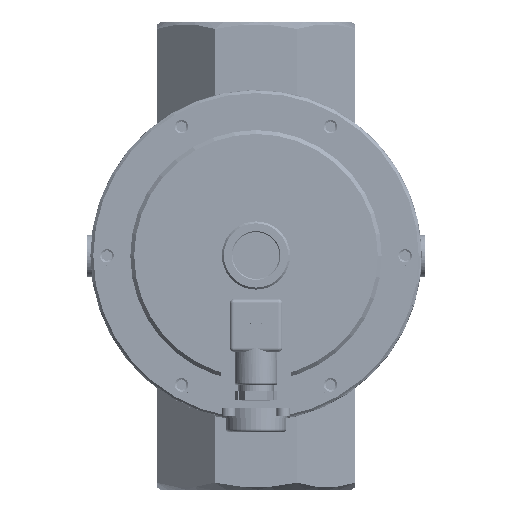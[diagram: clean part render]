
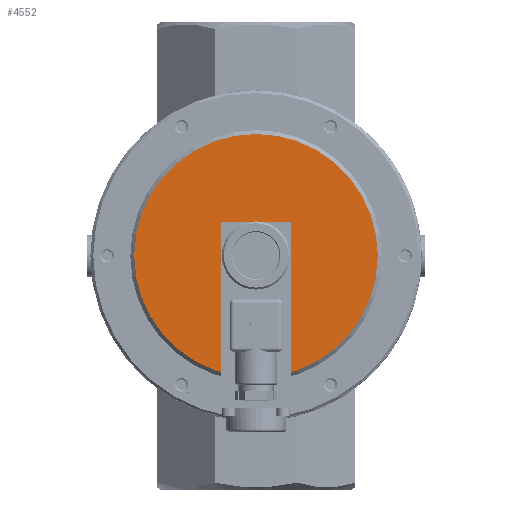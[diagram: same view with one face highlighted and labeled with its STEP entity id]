
A CAD part, top view. The second image highlights one B-rep face of the part: STEP entity #4552.
In plain terms, the highlighted planar face has unit normal (0, 0, 1).
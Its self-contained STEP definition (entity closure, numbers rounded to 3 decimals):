
#4552 = ADVANCED_FACE( '', ( #7053, #7054 ), #7055, .F. );
#7053 = FACE_OUTER_BOUND( '', #10757, .T. );
#7054 = FACE_BOUND( '', #10758, .T. );
#7055 = PLANE( '', #10759 );
#10757 = EDGE_LOOP( '', ( #20117 ) );
#10758 = EDGE_LOOP( '', ( #20118 ) );
#10759 = AXIS2_PLACEMENT_3D( '', #20119, #20120, #20121 );
#20117 = ORIENTED_EDGE( '', *, *, #23656, .F. );
#20118 = ORIENTED_EDGE( '', *, *, #23657, .T. );
#20119 = CARTESIAN_POINT( '', ( 0., 0., 15. ) );
#20120 = DIRECTION( '', ( 0., 0., -1. ) );
#20121 = DIRECTION( '', ( -1., 0., 0. ) );
#23656 = EDGE_CURVE( '', #27210, #27210, #27211, .T. );
#23657 = EDGE_CURVE( '', #27212, #27212, #27213, .T. );
#27210 = VERTEX_POINT( '', #34659 );
#27211 = CIRCLE( '', #34660, 62.5 );
#27212 = VERTEX_POINT( '', #34661 );
#27213 = CIRCLE( '', #34662, 16.5 );
#34659 = CARTESIAN_POINT( '', ( -62.5, 0., 15. ) );
#34660 = AXIS2_PLACEMENT_3D( '', #39060, #39061, #39062 );
#34661 = CARTESIAN_POINT( '', ( 0., -16.5, 15. ) );
#34662 = AXIS2_PLACEMENT_3D( '', #39063, #39064, #39065 );
#39060 = CARTESIAN_POINT( '', ( 0., 0., 15. ) );
#39061 = DIRECTION( '', ( 0., 0., -1. ) );
#39062 = DIRECTION( '', ( -1., 0., 0. ) );
#39063 = CARTESIAN_POINT( '', ( 0., 0., 15. ) );
#39064 = DIRECTION( '', ( 0., 0., -1. ) );
#39065 = DIRECTION( '', ( 0., -1., 0. ) );
